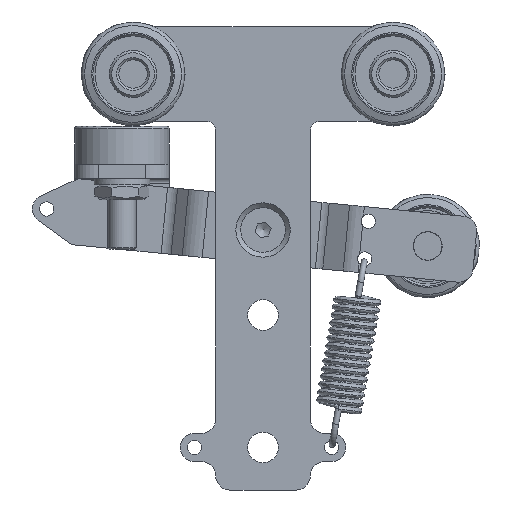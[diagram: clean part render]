
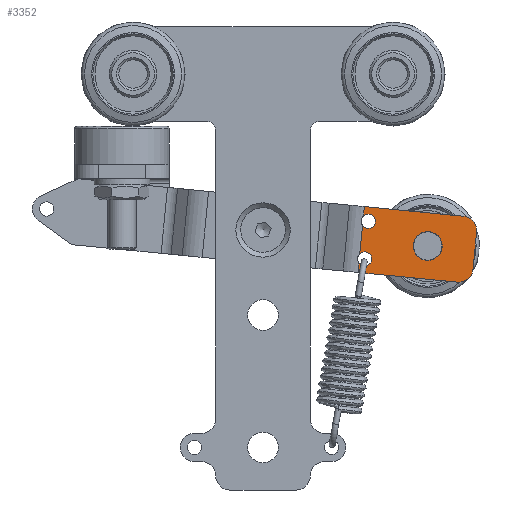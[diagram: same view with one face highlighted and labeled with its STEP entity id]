
A CAD part, front view. The second image highlights one B-rep face of the part: STEP entity #3352.
In plain terms, the highlighted planar face has unit normal (0, -1, 0).
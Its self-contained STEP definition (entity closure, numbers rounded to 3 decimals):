
#327=PLANE('',#3626);
#476=LINE('',#5275,#670);
#484=LINE('',#5302,#678);
#486=LINE('',#5306,#680);
#487=LINE('',#5310,#681);
#488=LINE('',#5313,#682);
#489=LINE('',#5314,#683);
#670=VECTOR('',#4165,21.151);
#678=VECTOR('',#4189,21.151);
#680=VECTOR('',#4193,2.038);
#681=VECTOR('',#4196,6.076);
#682=VECTOR('',#4199,2.038);
#683=VECTOR('',#4200,8.);
#830=FACE_BOUND('',#1209,.T.);
#968=FACE_OUTER_BOUND('',#1208,.T.);
#1208=EDGE_LOOP('',(#2544,#2545,#2546,#2547,#2548,#2549,#2550,#2551,#2552,
#2553));
#1209=EDGE_LOOP('',(#2554));
#1538=CIRCLE('',#3616,3.);
#1543=CIRCLE('',#3624,3.);
#1544=CIRCLE('',#3627,1.5);
#1545=CIRCLE('',#3628,1.5);
#1546=CIRCLE('',#3629,3.05);
#1734=VERTEX_POINT('',#5265);
#1735=VERTEX_POINT('',#5267);
#1737=VERTEX_POINT('',#5273);
#1746=VERTEX_POINT('',#5295);
#1747=VERTEX_POINT('',#5297);
#1748=VERTEX_POINT('',#5301);
#1749=VERTEX_POINT('',#5305);
#1750=VERTEX_POINT('',#5307);
#1751=VERTEX_POINT('',#5309);
#1752=VERTEX_POINT('',#5311);
#1753=VERTEX_POINT('',#5315);
#2054=EDGE_CURVE('',#1734,#1735,#1538,.T.);
#2058=EDGE_CURVE('',#1737,#1734,#476,.T.);
#2069=EDGE_CURVE('',#1746,#1747,#1543,.T.);
#2071=EDGE_CURVE('',#1748,#1747,#484,.T.);
#2073=EDGE_CURVE('',#1737,#1749,#486,.T.);
#2074=EDGE_CURVE('',#1749,#1750,#1544,.T.);
#2075=EDGE_CURVE('',#1750,#1751,#487,.T.);
#2076=EDGE_CURVE('',#1751,#1752,#1545,.T.);
#2077=EDGE_CURVE('',#1752,#1748,#488,.T.);
#2078=EDGE_CURVE('',#1746,#1735,#489,.T.);
#2079=EDGE_CURVE('',#1753,#1753,#1546,.T.);
#2544=ORIENTED_EDGE('',*,*,#2054,.F.);
#2545=ORIENTED_EDGE('',*,*,#2058,.F.);
#2546=ORIENTED_EDGE('',*,*,#2073,.T.);
#2547=ORIENTED_EDGE('',*,*,#2074,.T.);
#2548=ORIENTED_EDGE('',*,*,#2075,.T.);
#2549=ORIENTED_EDGE('',*,*,#2076,.T.);
#2550=ORIENTED_EDGE('',*,*,#2077,.T.);
#2551=ORIENTED_EDGE('',*,*,#2071,.T.);
#2552=ORIENTED_EDGE('',*,*,#2069,.F.);
#2553=ORIENTED_EDGE('',*,*,#2078,.T.);
#2554=ORIENTED_EDGE('',*,*,#2079,.T.);
#3352=ADVANCED_FACE('',(#968,#830),#327,.F.);
#3616=AXIS2_PLACEMENT_3D('',#5268,#4158,#4159);
#3624=AXIS2_PLACEMENT_3D('',#5298,#4184,#4185);
#3626=AXIS2_PLACEMENT_3D('',#5304,#4191,#4192);
#3627=AXIS2_PLACEMENT_3D('',#5308,#4194,#4195);
#3628=AXIS2_PLACEMENT_3D('',#5312,#4197,#4198);
#3629=AXIS2_PLACEMENT_3D('',#5316,#4201,#4202);
#4158=DIRECTION('center_axis',(0.,1.,0.));
#4159=DIRECTION('ref_axis',(0.707,0.,0.707));
#4165=DIRECTION('',(1.,0.,0.));
#4184=DIRECTION('center_axis',(0.,1.,0.));
#4185=DIRECTION('ref_axis',(0.707,0.,-0.707));
#4189=DIRECTION('',(1.,0.,0.));
#4191=DIRECTION('center_axis',(0.,1.,0.));
#4192=DIRECTION('ref_axis',(0.,0.,1.));
#4193=DIRECTION('',(0.,0.,-1.));
#4194=DIRECTION('center_axis',(0.,1.,0.));
#4195=DIRECTION('ref_axis',(-1.,0.,0.));
#4196=DIRECTION('',(0.,0.,-1.));
#4197=DIRECTION('center_axis',(0.,1.,0.));
#4198=DIRECTION('ref_axis',(-1.,0.,0.));
#4199=DIRECTION('',(0.,0.,-1.));
#4200=DIRECTION('',(0.,0.,1.));
#4201=DIRECTION('center_axis',(0.,1.,0.));
#4202=DIRECTION('ref_axis',(-1.,0.,0.));
#5265=CARTESIAN_POINT('',(42.,-7.,7.));
#5267=CARTESIAN_POINT('',(45.,-7.,4.));
#5268=CARTESIAN_POINT('Origin',(42.,-7.,4.));
#5273=CARTESIAN_POINT('',(20.849,-7.,7.));
#5275=CARTESIAN_POINT('',(-51.205,-7.,7.));
#5295=CARTESIAN_POINT('',(45.,-7.,-4.));
#5297=CARTESIAN_POINT('',(42.,-7.,-7.));
#5298=CARTESIAN_POINT('Origin',(42.,-7.,-4.));
#5301=CARTESIAN_POINT('',(20.849,-7.,-7.));
#5302=CARTESIAN_POINT('',(-51.205,-7.,-7.));
#5304=CARTESIAN_POINT('Origin',(-3.102,-7.,0.));
#5305=CARTESIAN_POINT('',(20.849,-7.,4.962));
#5306=CARTESIAN_POINT('',(20.849,-7.,0.));
#5307=CARTESIAN_POINT('',(20.849,-7.,3.038));
#5308=CARTESIAN_POINT('Origin',(22.,-7.,4.));
#5309=CARTESIAN_POINT('',(20.849,-7.,-3.038));
#5310=CARTESIAN_POINT('',(20.849,-7.,0.));
#5311=CARTESIAN_POINT('',(20.849,-7.,-4.962));
#5312=CARTESIAN_POINT('Origin',(22.,-7.,-4.));
#5313=CARTESIAN_POINT('',(20.849,-7.,0.));
#5314=CARTESIAN_POINT('',(45.,-7.,-7.));
#5315=CARTESIAN_POINT('',(38.05,-7.,0.));
#5316=CARTESIAN_POINT('Origin',(35.,-7.,0.));
